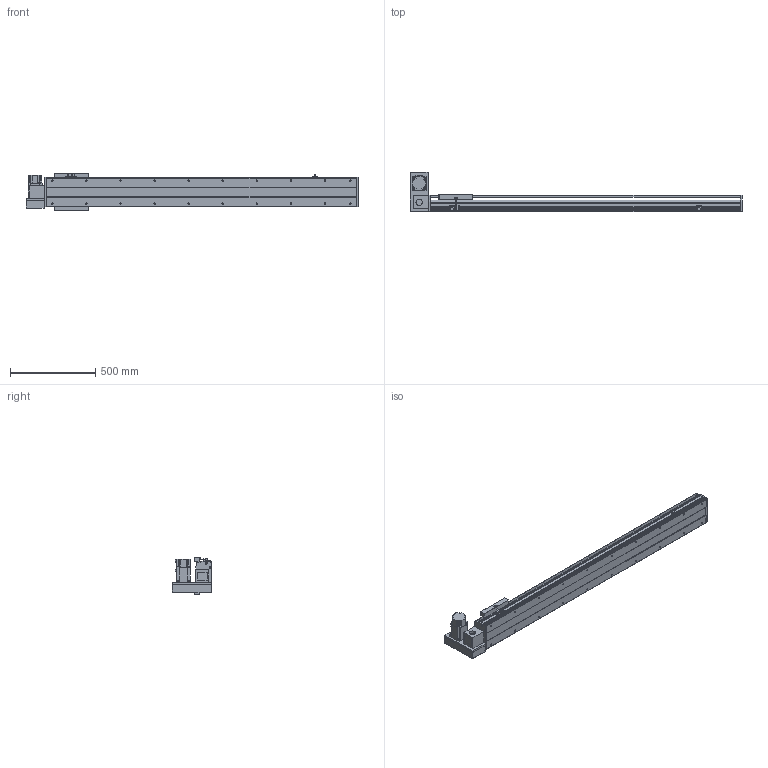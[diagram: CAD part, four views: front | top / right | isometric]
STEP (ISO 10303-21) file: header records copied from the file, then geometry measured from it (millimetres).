
FILE_DESCRIPTION(/* description */ ('STEP AP214'),/* implementation_level */ '2;1');
FILE_NAME(/* name */ 'PBS200-P40-S1450-LU-T75-C1-N(0)',/* time_stamp */ '2022-06-11T09:00:23+02:00',/* author */ ('License CC BY-ND 4.0'),/* organization */ ('CADENAS'),/* preprocessor_version */ 'ST-DEVELOPER v18.102',/* originating_system */ 'PARTsolutions',/* authorisation */ ' ');
FILE_SCHEMA (('AUTOMOTIVE_DESIGN {1 0 10303 214 3 1 1}'));
Length unit declared in the file: millimetre
Products named in the file (7): PBS200-P40-S1450-LU-T75-C1-N(0); PBS200_sensor; PBS200_plant; PBS200_sliser; T75-p1; PBS200T-LU_motors; PBS200-S1450()_body
Assembly tree (8 placements, depth 2):
  PBS200-P40-S1450-LU-T75-C1-N(0)
    PBS200_sensor  x3
    PBS200_plant
    PBS200_sliser
    T75-p1
    PBS200T-LU_motors
    PBS200-S1450()_body
Bounding box: 1950 x 231 x 221 mm (x, y, z)
Volume: 14047396.6 mm3; surface area: 2262518.6 mm2
Topology: 8 solids, 8 shells, 932 faces, 2394 edges, 1560 vertices
Faces by surface type: plane 578, cylinder 302, cone 52
Full cylindrical faces by diameter (mm): 2.459 x6, 3.242 x4, 4.5 x6, 4.917 x4, 5 x6, 6 x7, 6.6 x8, 6.647 x24, 8 x6, 10 x4, 12 x8, 38 x2, 40 x1, 70 x1
Entity records: 24821 total; most frequent: DIRECTION 4375, CARTESIAN_POINT 4228, ORIENTED_EDGE 4006, EDGE_CURVE 2003, AXIS2_PLACEMENT_3D 1531, VERTEX_POINT 1384, LINE 1313, VECTOR 1313
